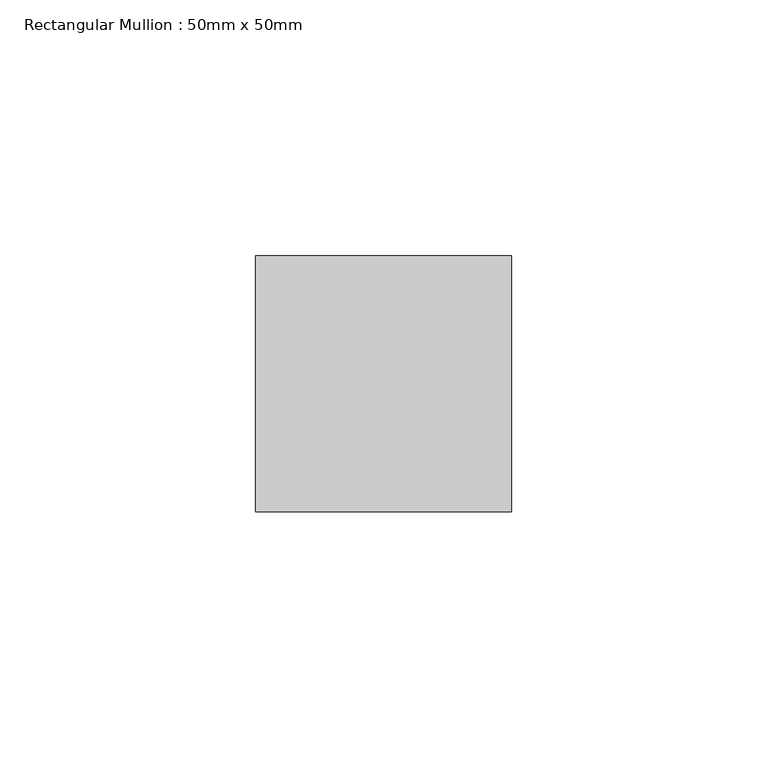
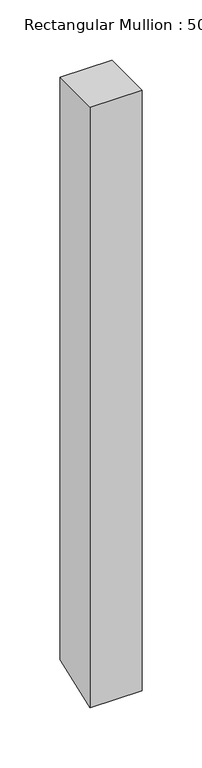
"""IFC4 building model written with IfcOpenShell, lengths in millimetres: member geometry, Rectangular Mullion : 50mm x 50mm."""

import ifcopenshell
import ifcopenshell.guid

model = None  # the IFC model being written
_history = None  # IfcOwnerHistory: only IFC2X3 demands one
_inside = {}  # id of a spatial element -> (the spatial element, [elements in it])
_under = {}  # id of a project, library or spatial element -> (it, [spatial elements below it])
_declared = {}  # id of a project -> (the project, [libraries it declares])
_typed = {}  # id of a type object -> (the type object, [elements of that type])
_made_of = {}  # id of a material, layer set ... -> (it, [elements and type objects made of it])


def new_model(schema):
    """Start an empty IFC model of exactly this schema.

    Asked for "IFC4X3", IfcOpenShell would pick the latest addendum, in which some entities
    have other attributes; the version numbers below select the first issue.
    IFC2X3 requires an IfcOwnerHistory on every rooted entity: one is made here for all.
    """
    global model, _history
    if schema == "IFC4X3":
        model = ifcopenshell.file(schema_version=(4, 3, 0, 0))
    else:
        model = ifcopenshell.file(schema=schema)
    _inside.clear()
    _under.clear()
    _declared.clear()
    _typed.clear()
    _made_of.clear()
    _history = None
    if model.schema == "IFC2X3":
        org = make("IfcOrganization", Name="unknown")
        user = make(
            "IfcPersonAndOrganization",
            ThePerson=make("IfcPerson", FamilyName="unknown"),
            TheOrganization=org,
        )
        app = make(
            "IfcApplication",
            ApplicationDeveloper=org,
            Version="unknown",
            ApplicationFullName="unknown",
            ApplicationIdentifier="unknown",
        )
        _history = make(
            "IfcOwnerHistory",
            OwningUser=user,
            OwningApplication=app,
            ChangeAction="ADDED",
            CreationDate=0,
        )
    return model


def make(cls, **values):
    """One entity of the class cls with the attributes given. An attribute that is None is left unset."""
    return model.create_entity(
        cls, **{name: value for name, value in values.items() if value is not None}
    )


def rooted(cls, **values):
    """An entity with a GlobalId (a new one), such as an element, a storey or a relation."""
    return make(cls, GlobalId=ifcopenshell.guid.new(), OwnerHistory=_history, **values)


def si_unit(unit_type, name, prefix=None):
    """IfcSIUnit, for example si_unit("LENGTHUNIT", "METRE", prefix="MILLI")."""
    return make("IfcSIUnit", UnitType=unit_type, Prefix=prefix, Name=name)


def assignment(units):
    """IfcUnitAssignment: the units of a project."""
    return None if units is None else make("IfcUnitAssignment", Units=units)


def point(xyz):
    """IfcCartesianPoint."""
    return None if xyz is None else make("IfcCartesianPoint", Coordinates=xyz)


def direction(xyz):
    """IfcDirection."""
    return None if xyz is None else make("IfcDirection", DirectionRatios=xyz)


def frame(location, z_axis=None, x_axis=None):
    """IfcAxis2Placement3D, a coordinate frame: its origin and axes. An axis left out is left unset."""
    return make(
        "IfcAxis2Placement3D",
        Location=point(location),
        Axis=direction(z_axis),
        RefDirection=direction(x_axis),
    )


def origin():
    """The frame at (0, 0, 0) with its axes left unset."""
    return frame((0.0, 0.0, 0.0))


def place(relative_to, where):
    """IfcLocalPlacement: puts the frame where relative to a parent placement (None: the world)."""
    return make(
        "IfcLocalPlacement", PlacementRelTo=relative_to, RelativePlacement=where
    )


def context(
    kind, dimensions, precision=None, world=None, true_north=None, identifier=None
):
    """IfcGeometricRepresentationContext, for example the 3D "Model" context."""
    return make(
        "IfcGeometricRepresentationContext",
        ContextIdentifier=identifier,
        ContextType=kind,
        CoordinateSpaceDimension=dimensions,
        Precision=precision,
        WorldCoordinateSystem=world,
        TrueNorth=true_north,
    )


def project(units=None, contexts=None):
    """IfcProject with its units and contexts."""
    return rooted(
        "IfcProject",
        Name="project",
        RepresentationContexts=contexts,
        UnitsInContext=assignment(units),
    )


def spatial(cls, under=None, at=None, **own):
    """A site, building, storey or space (cls), placed at a placement, below another one or the project."""
    s = rooted(cls, ObjectPlacement=at, **own)
    if under is not None:
        _under.setdefault(under.id(), (under, []))[1].append(s)
    return s


def polyline(points):
    """IfcPolyline through the points."""
    return make("IfcPolyline", Points=[point(p) for p in points])


def outline(outer, holes=None, kind="AREA"):
    """IfcArbitraryClosedProfileDef: a profile drawn as a closed curve; with holes, ...WithVoids."""
    if holes is None:
        return make("IfcArbitraryClosedProfileDef", ProfileType=kind, OuterCurve=outer)
    return make(
        "IfcArbitraryProfileDefWithVoids",
        ProfileType=kind,
        OuterCurve=outer,
        InnerCurves=holes,
    )


def extrude(swept, where, along, depth):
    """IfcExtrudedAreaSolid: the profile swept, set in the frame where, extruded along a direction by depth."""
    return make(
        "IfcExtrudedAreaSolid",
        SweptArea=swept,
        Position=where,
        ExtrudedDirection=direction(along),
        Depth=depth,
    )


def shape(context_of_items, identifier, shape_type, items):
    """IfcShapeRepresentation: the items that make up one representation, for example the "Body"."""
    return make(
        "IfcShapeRepresentation",
        ContextOfItems=context_of_items,
        RepresentationIdentifier=identifier,
        RepresentationType=shape_type,
        Items=items,
    )


def source(mapping_origin, context_of_items, identifier, shape_type, items):
    """IfcRepresentationMap: a shape defined once, which mapped items show again and again."""
    return make(
        "IfcRepresentationMap",
        MappingOrigin=mapping_origin,
        MappedRepresentation=shape(context_of_items, identifier, shape_type, items),
    )


def transform(
    local_origin,
    x_axis=None,
    y_axis=None,
    z_axis=None,
    scale=None,
    scale2=None,
    scale3=None,
    uniform=True,
):
    """IfcCartesianTransformationOperator3D, or its non-uniform kind. x_axis, y_axis, z_axis: its Axis1, 2, 3."""
    if uniform:
        return make(
            "IfcCartesianTransformationOperator3D",
            Axis1=direction(x_axis),
            Axis2=direction(y_axis),
            LocalOrigin=point(local_origin),
            Scale=scale,
            Axis3=direction(z_axis),
        )
    return make(
        "IfcCartesianTransformationOperator3DnonUniform",
        Axis1=direction(x_axis),
        Axis2=direction(y_axis),
        LocalOrigin=point(local_origin),
        Scale=scale,
        Axis3=direction(z_axis),
        Scale2=scale2,
        Scale3=scale3,
    )


def mapped(mapping_source, mapping_target):
    """IfcMappedItem: shows the shape of a source again, moved by a transform."""
    return make(
        "IfcMappedItem", MappingSource=mapping_source, MappingTarget=mapping_target
    )


def made_of(thing, what):
    """Note that an element or type object is made of a material, layer set ...; save() writes the relation."""
    if what is not None:
        _made_of.setdefault(what.id(), (what, []))[1].append(thing)
    return thing


def element(
    cls,
    number,
    at=None,
    inside=None,
    cuts=None,
    type_object=None,
    material=None,
    context=None,
    identifier="Body",
    shape_type=None,
    held_by="IfcProductDefinitionShape",
    body=None,
    shapes=None,
    **own,
):
    """One element of the class cls, such as IfcWall. Its Tag is "e" and its number.

    at: its placement. inside: the storey or other place that contains it. cuts: it is an
    opening in that element (IfcRelVoidsElement). A single representation is given by context,
    identifier, shape_type and body (its items); several are given by shapes. held_by: the class
    of the entity that holds the representations. save() writes the other relations.
    """
    e = rooted(cls, Tag="e%d" % number, ObjectPlacement=at, **own)
    if body is not None:
        shapes = [shape(context, identifier, shape_type, body)]
    if shapes is not None:
        e.Representation = make(held_by, Representations=shapes)
    if inside is not None:
        _inside.setdefault(inside.id(), (inside, []))[1].append(e)
    if cuts is not None:
        rooted(
            "IfcRelVoidsElement", RelatingBuildingElement=cuts, RelatedOpeningElement=e
        )
    if type_object is not None:
        _typed.setdefault(type_object.id(), (type_object, []))[1].append(e)
    return made_of(e, material)


def aggregate(whole, parts):
    """IfcRelAggregates: a whole, such as a stair, and the parts it consists of."""
    return rooted("IfcRelAggregates", RelatingObject=whole, RelatedObjects=parts)


def save(model, path):
    """Write the relations noted so far, then the file.

    IfcRelAggregates (storeys below a building ...), IfcRelContainedInSpatialStructure (elements
    in a storey), IfcRelDefinesByType, IfcRelAssociatesMaterial and IfcRelDeclares: one each for
    every whole, place, type object, material and project.
    """
    for whole, parts in _under.values():
        aggregate(whole, parts)
    for where, things in _inside.values():
        rooted(
            "IfcRelContainedInSpatialStructure",
            RelatedElements=things,
            RelatingStructure=where,
        )
    for kind, things in _typed.values():
        rooted("IfcRelDefinesByType", RelatedObjects=things, RelatingType=kind)
    for what, things in _made_of.values():
        rooted("IfcRelAssociatesMaterial", RelatedObjects=things, RelatingMaterial=what)
    for by, libraries in _declared.values():
        rooted("IfcRelDeclares", RelatingContext=by, RelatedDefinitions=libraries)
    model.write(path)


def rectangular_mullion_50mm_x_50mm_9a77049b(model_context):
    return source(origin(), model_context, "Body", "SweptSolid", [
        extrude(outline(polyline([(-25.0, 0.0), (25.0, 0.0), (25.0, -590.6564418), (-25.0, -609.3435582), (-25.0, 0.0)])), frame((-25.0, 0.0, 0.0), z_axis=(1.0, 0.0, 0.0), x_axis=(0.0, 1.0, 0.0)), (0.0, 0.0, 1.0), 50.0),
    ])


if __name__ == "__main__":
    model = new_model("IFC4")
    model_context = context("Model", 3, world=origin())
    ifc_project = project(units=[si_unit("LENGTHUNIT", "METRE", prefix="MILLI")], contexts=[model_context])
    site = spatial("IfcSite", under=ifc_project)
    building = spatial("IfcBuilding", under=site)
    placement = place(None, origin())
    rectangular_mullion_50mm_x_50mm_shape = rectangular_mullion_50mm_x_50mm_9a77049b(model_context)
    element("IfcMember", 1, ObjectType="Rectangular Mullion : 50mm x 50mm", at=placement, inside=building, context=model_context, shape_type="MappedRepresentation", body=[
        mapped(rectangular_mullion_50mm_x_50mm_shape, transform((0.0, 0.0, 0.0), x_axis=(1.0, 0.0, 0.0), y_axis=(0.0, 1.0, 0.0), z_axis=(0.0, 0.0, 1.0))),
    ])
    save(model, "model.ifc")
